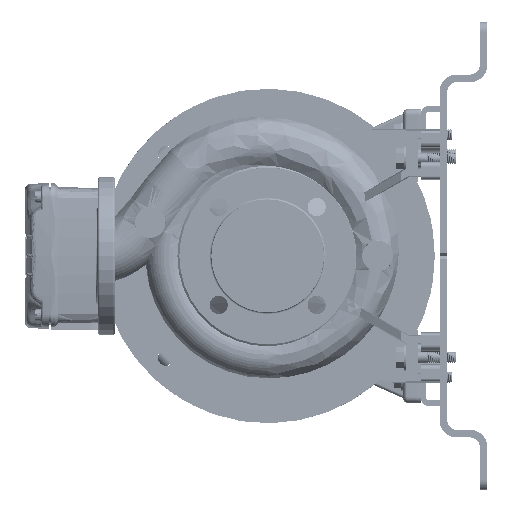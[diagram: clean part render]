
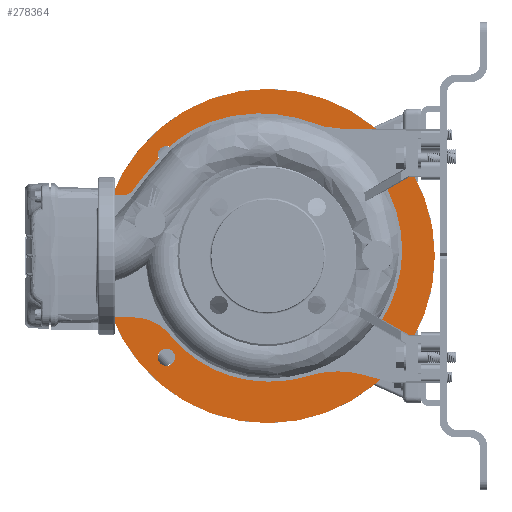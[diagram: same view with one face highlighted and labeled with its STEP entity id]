
A CAD part, left-side view. The second image highlights one B-rep face of the part: STEP entity #278364.
In plain terms, the highlighted planar face has unit normal (-1, 0, 0).
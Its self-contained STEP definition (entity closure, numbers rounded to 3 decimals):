
#2421 = VERTEX_POINT ( 'NONE', #244274 ) ;
#5007 = VERTEX_POINT ( 'NONE', #205530 ) ;
#6457 = FACE_BOUND ( 'NONE', #133873, .T. ) ;
#9447 = CARTESIAN_POINT ( 'NONE',  ( 202.823, 212.821, 333.033 ) ) ;
#14916 = VERTEX_POINT ( 'NONE', #145859 ) ;
#16512 = ORIENTED_EDGE ( 'NONE', *, *, #25820, .T. ) ;
#19054 = DIRECTION ( 'NONE',  ( 0., 0., 1. ) ) ;
#20706 = DIRECTION ( 'NONE',  ( 1., 0., 0. ) ) ;
#23803 = ORIENTED_EDGE ( 'NONE', *, *, #168396, .F. ) ;
#23885 = AXIS2_PLACEMENT_3D ( 'NONE', #189735, #222756, #74028 ) ;
#25820 = EDGE_CURVE ( 'NONE', #94293, #121753, #272268, .T. ) ;
#27970 = CARTESIAN_POINT ( 'NONE',  ( 202.823, 106.756, 217.966 ) ) ;
#35966 = VERTEX_POINT ( 'NONE', #27970 ) ;
#38315 = DIRECTION ( 'NONE',  ( 0., 0., -1. ) ) ;
#38933 = AXIS2_PLACEMENT_3D ( 'NONE', #72114, #143640, #276256 ) ;
#39310 = AXIS2_PLACEMENT_3D ( 'NONE', #206934, #118367, #276891 ) ;
#40667 = DIRECTION ( 'NONE',  ( 1., 0., 0. ) ) ;
#40965 = DIRECTION ( 'NONE',  ( 0., 0., 1. ) ) ;
#41571 = EDGE_CURVE ( 'NONE', #14916, #294449, #154493, .T. ) ;
#42906 = ORIENTED_EDGE ( 'NONE', *, *, #240833, .T. ) ;
#45233 = CARTESIAN_POINT ( 'NONE',  ( 202.823, 106.755, 448.098 ) ) ;
#47118 = VERTEX_POINT ( 'NONE', #138988 ) ;
#47234 = DIRECTION ( 'NONE',  ( 1., 0., 0. ) ) ;
#47722 = ORIENTED_EDGE ( 'NONE', *, *, #80296, .T. ) ;
#49157 = FACE_BOUND ( 'NONE', #286339, .T. ) ;
#50463 = DIRECTION ( 'NONE',  ( 0., 0., 1. ) ) ;
#53508 = ORIENTED_EDGE ( 'NONE', *, *, #225904, .T. ) ;
#55059 = EDGE_LOOP ( 'NONE', ( #274307, #115414, #218283, #102639 ) ) ;
#63639 = CARTESIAN_POINT ( 'NONE',  ( 202.823, 86.231, 349.677 ) ) ;
#66348 = CARTESIAN_POINT ( 'NONE',  ( 202.823, 106.755, 430.098 ) ) ;
#71120 = AXIS2_PLACEMENT_3D ( 'NONE', #255749, #47234, #140113 ) ;
#72114 = CARTESIAN_POINT ( 'NONE',  ( 202.823, 212.821, 333.033 ) ) ;
#72482 = EDGE_CURVE ( 'NONE', #134977, #14916, #101913, .T. ) ;
#73663 = EDGE_CURVE ( 'NONE', #294449, #2421, #111886, .T. ) ;
#74028 = DIRECTION ( 'NONE',  ( 0., 0., -1. ) ) ;
#74178 = EDGE_CURVE ( 'NONE', #5007, #35966, #229116, .T. ) ;
#74954 = FACE_BOUND ( 'NONE', #260066, .T. ) ;
#79522 = CARTESIAN_POINT ( 'NONE',  ( 202.823, 212.821, 333.033 ) ) ;
#80296 = EDGE_CURVE ( 'NONE', #263326, #47118, #248846, .T. ) ;
#81405 = CIRCLE ( 'NONE', #290481, 175. ) ;
#83447 = AXIS2_PLACEMENT_3D ( 'NONE', #222520, #272689, #249754 ) ;
#83944 = DIRECTION ( 'NONE',  ( 1., 0., 0. ) ) ;
#84399 = ORIENTED_EDGE ( 'NONE', *, *, #91312, .F. ) ;
#84478 = EDGE_CURVE ( 'NONE', #35966, #5007, #206789, .T. ) ;
#88618 = DIRECTION ( 'NONE',  ( 1., 0., 0. ) ) ;
#91165 = ORIENTED_EDGE ( 'NONE', *, *, #97950, .T. ) ;
#91312 = EDGE_CURVE ( 'NONE', #227613, #92907, #81405, .T. ) ;
#91321 = CARTESIAN_POINT ( 'NONE',  ( 202.823, 318.888, 217.967 ) ) ;
#92907 = VERTEX_POINT ( 'NONE', #154017 ) ;
#94293 = VERTEX_POINT ( 'NONE', #66348 ) ;
#97950 = EDGE_CURVE ( 'NONE', #47118, #263326, #170506, .T. ) ;
#101913 = CIRCLE ( 'NONE', #199328, 23.5 ) ;
#102639 = ORIENTED_EDGE ( 'NONE', *, *, #72482, .T. ) ;
#109468 = AXIS2_PLACEMENT_3D ( 'NONE', #217693, #219194, #263264 ) ;
#110579 = CARTESIAN_POINT ( 'NONE',  ( 202.823, 102.821, 333.033 ) ) ;
#110886 = FACE_OUTER_BOUND ( 'NONE', #269182, .T. ) ;
#111886 = CIRCLE ( 'NONE', #38933, 127.679 ) ;
#113499 = DIRECTION ( 'NONE',  ( 0., 0., 1. ) ) ;
#115414 = ORIENTED_EDGE ( 'NONE', *, *, #73663, .T. ) ;
#118367 = DIRECTION ( 'NONE',  ( 1., 0., 0. ) ) ;
#121753 = VERTEX_POINT ( 'NONE', #45233 ) ;
#125874 = ORIENTED_EDGE ( 'NONE', *, *, #74178, .T. ) ;
#125959 = AXIS2_PLACEMENT_3D ( 'NONE', #297193, #88618, #50463 ) ;
#128094 = CARTESIAN_POINT ( 'NONE',  ( 202.823, 212.821, 333.033 ) ) ;
#133873 = EDGE_LOOP ( 'NONE', ( #47722, #91165 ) ) ;
#134723 = DIRECTION ( 'NONE',  ( 1., 0., 0. ) ) ;
#134977 = VERTEX_POINT ( 'NONE', #63639 ) ;
#138988 = CARTESIAN_POINT ( 'NONE',  ( 202.823, 318.888, 235.967 ) ) ;
#140113 = DIRECTION ( 'NONE',  ( 0., 0., 1. ) ) ;
#143640 = DIRECTION ( 'NONE',  ( 1., 0., 0. ) ) ;
#145859 = CARTESIAN_POINT ( 'NONE',  ( 202.823, 86.231, 316.389 ) ) ;
#148920 = CIRCLE ( 'NONE', #71120, 9. ) ;
#151077 = CARTESIAN_POINT ( 'NONE',  ( 202.823, 212.821, 205.353 ) ) ;
#152421 = DIRECTION ( 'NONE',  ( 0., 0., -1. ) ) ;
#154017 = CARTESIAN_POINT ( 'NONE',  ( 202.823, 212.821, 158.033 ) ) ;
#154493 = CIRCLE ( 'NONE', #300389, 127.679 ) ;
#159744 = DIRECTION ( 'NONE',  ( 0., 0., 1. ) ) ;
#162221 = DIRECTION ( 'NONE',  ( 0., 0., -1. ) ) ;
#163336 = FACE_BOUND ( 'NONE', #257809, .T. ) ;
#165043 = EDGE_CURVE ( 'NONE', #222396, #174276, #203931, .T. ) ;
#168396 = EDGE_CURVE ( 'NONE', #92907, #227613, #271839, .T. ) ;
#170506 = CIRCLE ( 'NONE', #39310, 9. ) ;
#174276 = VERTEX_POINT ( 'NONE', #290741 ) ;
#177553 = CARTESIAN_POINT ( 'NONE',  ( 202.823, 106.755, 439.098 ) ) ;
#180454 = CARTESIAN_POINT ( 'NONE',  ( 202.823, 106.755, 439.098 ) ) ;
#185906 = CIRCLE ( 'NONE', #229599, 127.679 ) ;
#189735 = CARTESIAN_POINT ( 'NONE',  ( 202.823, 212.821, 333.033 ) ) ;
#195224 = EDGE_CURVE ( 'NONE', #2421, #134977, #185906, .T. ) ;
#199328 = AXIS2_PLACEMENT_3D ( 'NONE', #110579, #40667, #246072 ) ;
#201630 = CARTESIAN_POINT ( 'NONE',  ( 202.823, 212.821, 508.033 ) ) ;
#203931 = CIRCLE ( 'NONE', #125959, 9. ) ;
#205530 = CARTESIAN_POINT ( 'NONE',  ( 202.823, 106.756, 235.966 ) ) ;
#206789 = CIRCLE ( 'NONE', #109468, 9. ) ;
#206934 = CARTESIAN_POINT ( 'NONE',  ( 202.823, 318.888, 226.967 ) ) ;
#210119 = CARTESIAN_POINT ( 'NONE',  ( 202.823, 106.756, 226.966 ) ) ;
#212030 = CARTESIAN_POINT ( 'NONE',  ( 202.823, 318.887, 448.099 ) ) ;
#217693 = CARTESIAN_POINT ( 'NONE',  ( 202.823, 106.756, 226.966 ) ) ;
#218113 = FACE_BOUND ( 'NONE', #55059, .T. ) ;
#218283 = ORIENTED_EDGE ( 'NONE', *, *, #195224, .T. ) ;
#219194 = DIRECTION ( 'NONE',  ( 1., 0., 0. ) ) ;
#221076 = DIRECTION ( 'NONE',  ( -1., 0., 0. ) ) ;
#222396 = VERTEX_POINT ( 'NONE', #212030 ) ;
#222520 = CARTESIAN_POINT ( 'NONE',  ( 202.823, 318.888, 226.967 ) ) ;
#222756 = DIRECTION ( 'NONE',  ( 1., 0., 0. ) ) ;
#224128 = AXIS2_PLACEMENT_3D ( 'NONE', #210119, #296857, #159744 ) ;
#225904 = EDGE_CURVE ( 'NONE', #121753, #94293, #245822, .T. ) ;
#227613 = VERTEX_POINT ( 'NONE', #201630 ) ;
#227839 = DIRECTION ( 'NONE',  ( 1., 0., 0. ) ) ;
#229116 = CIRCLE ( 'NONE', #224128, 9. ) ;
#229599 = AXIS2_PLACEMENT_3D ( 'NONE', #128094, #83944, #38315 ) ;
#240833 = EDGE_CURVE ( 'NONE', #174276, #222396, #148920, .T. ) ;
#243244 = AXIS2_PLACEMENT_3D ( 'NONE', #9447, #221076, #40965 ) ;
#244274 = CARTESIAN_POINT ( 'NONE',  ( 202.823, 212.821, 460.712 ) ) ;
#245822 = CIRCLE ( 'NONE', #259774, 9. ) ;
#246072 = DIRECTION ( 'NONE',  ( 0., 0., 1. ) ) ;
#248846 = CIRCLE ( 'NONE', #83447, 9. ) ;
#249407 = PLANE ( 'NONE',  #243244 ) ;
#249754 = DIRECTION ( 'NONE',  ( 0., 0., 1. ) ) ;
#253520 = CARTESIAN_POINT ( 'NONE',  ( 202.823, 212.821, 333.033 ) ) ;
#255749 = CARTESIAN_POINT ( 'NONE',  ( 202.823, 318.887, 439.099 ) ) ;
#257809 = EDGE_LOOP ( 'NONE', ( #42906, #291239 ) ) ;
#259774 = AXIS2_PLACEMENT_3D ( 'NONE', #180454, #134723, #19054 ) ;
#260066 = EDGE_LOOP ( 'NONE', ( #16512, #53508 ) ) ;
#263264 = DIRECTION ( 'NONE',  ( 0., 0., 1. ) ) ;
#263326 = VERTEX_POINT ( 'NONE', #91321 ) ;
#269182 = EDGE_LOOP ( 'NONE', ( #23803, #84399 ) ) ;
#271839 = CIRCLE ( 'NONE', #23885, 175. ) ;
#272268 = CIRCLE ( 'NONE', #287049, 9. ) ;
#272689 = DIRECTION ( 'NONE',  ( 1., 0., 0. ) ) ;
#274307 = ORIENTED_EDGE ( 'NONE', *, *, #41571, .T. ) ;
#276256 = DIRECTION ( 'NONE',  ( 0., 0., -1. ) ) ;
#276891 = DIRECTION ( 'NONE',  ( 0., 0., 1. ) ) ;
#278364 = ADVANCED_FACE ( 'NONE', ( #49157, #74954, #163336, #6457, #218113, #110886 ), #249407, .T. ) ;
#286339 = EDGE_LOOP ( 'NONE', ( #288971, #125874 ) ) ;
#287049 = AXIS2_PLACEMENT_3D ( 'NONE', #177553, #227839, #113499 ) ;
#288971 = ORIENTED_EDGE ( 'NONE', *, *, #84478, .T. ) ;
#290481 = AXIS2_PLACEMENT_3D ( 'NONE', #253520, #20706, #162221 ) ;
#290741 = CARTESIAN_POINT ( 'NONE',  ( 202.823, 318.887, 430.099 ) ) ;
#291031 = DIRECTION ( 'NONE',  ( 1., 0., 0. ) ) ;
#291239 = ORIENTED_EDGE ( 'NONE', *, *, #165043, .T. ) ;
#294449 = VERTEX_POINT ( 'NONE', #151077 ) ;
#296857 = DIRECTION ( 'NONE',  ( 1., 0., 0. ) ) ;
#297193 = CARTESIAN_POINT ( 'NONE',  ( 202.823, 318.887, 439.099 ) ) ;
#300389 = AXIS2_PLACEMENT_3D ( 'NONE', #79522, #291031, #152421 ) ;
